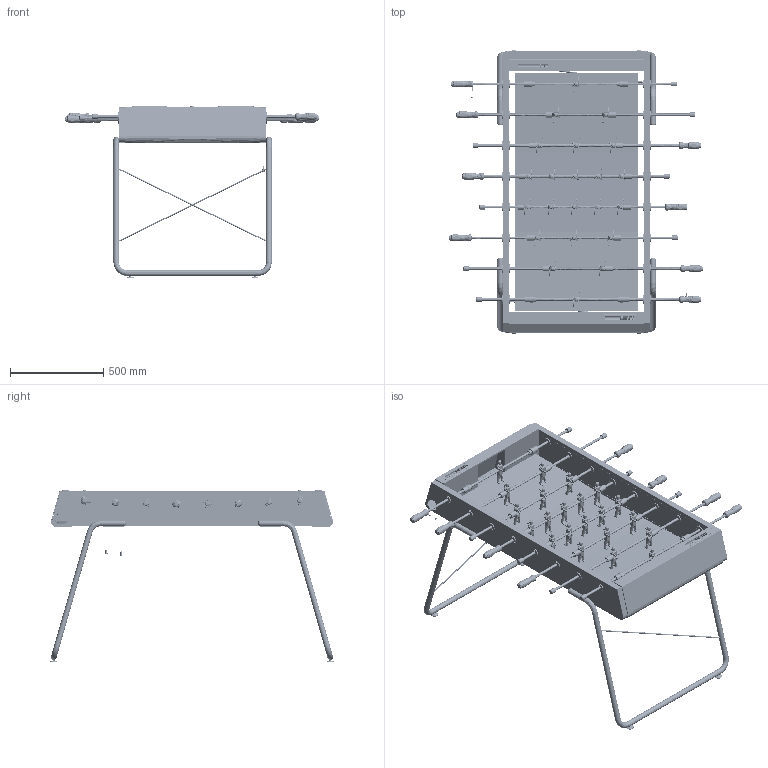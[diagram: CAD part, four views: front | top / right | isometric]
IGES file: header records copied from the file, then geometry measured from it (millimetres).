
Start section: START RECORD GO HERE.
Global section: file name: RS#3_3D.igs; native system: IBM CATIA IGES - CATIA Version 5 Release 14 ; preprocessor: CATIA Version 5 Release 14 ; author: Administrador; organization: IMACAAC2; date: 20140404.161547; units: millimetre
Bounding box: 1359.26 x 1522.48 x 926.41 mm (x, y, z)
Surface area: 10533520.9 mm2 (no closed solid volume)
Topology: 0 solids, 0 shells, 9006 faces, 42476 edges, 42288 vertices
Faces by surface type: revolution 4582, plane 4024, bspline 396, extrusion 4
